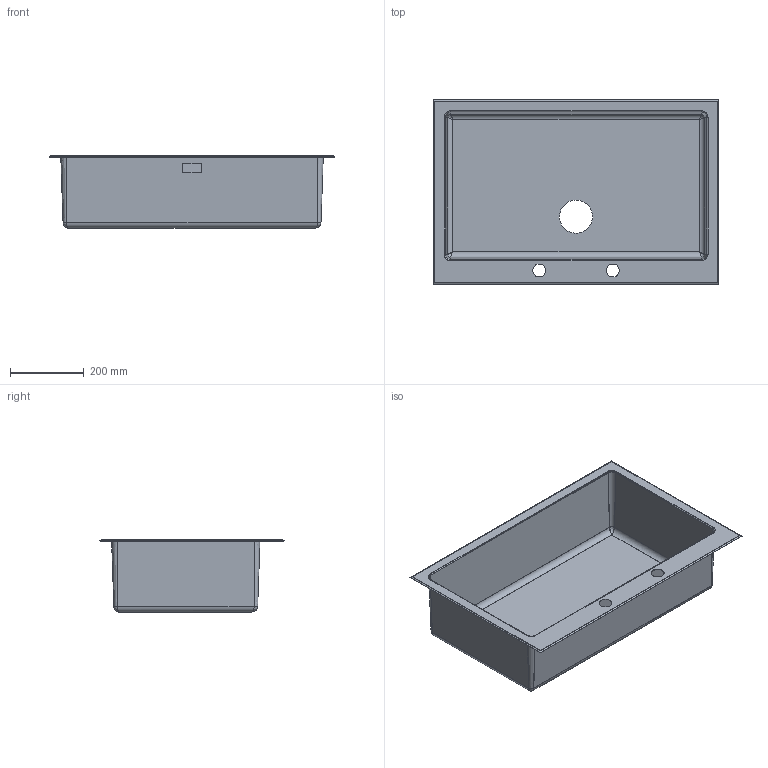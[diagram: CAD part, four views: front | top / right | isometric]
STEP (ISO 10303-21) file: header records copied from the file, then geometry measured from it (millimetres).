
FILE_DESCRIPTION(('CATIA V5 STEP Exchange'),'2;1');
FILE_NAME('C:\Users\linop\Desktop\VQR71RS.stp','2018-05-31T06:49:04+00:00',('none'),('none'),'CATIA Version 5-6 Release 2014','CATIA V5 STEP AP203','none');
FILE_SCHEMA(('CONFIG_CONTROL_DESIGN'));
Length unit declared in the file: millimetre
Products named in the file (1): VQR71RS
Bounding box: 775 x 500 x 195.9 mm (x, y, z)
Volume: 696545.8 mm3; surface area: 1550843.1 mm2
Topology: 1 solids, 1 shells, 128 faces, 300 edges, 176 vertices
Faces by surface type: plane 52, bspline 40, cylinder 36
Entity records: 7848 total; most frequent: CARTESIAN_POINT 5294, ORIENTED_EDGE 600, DIRECTION 343, EDGE_CURVE 300, VERTEX_POINT 176, VECTOR 149, LINE 149, EDGE_LOOP 138
